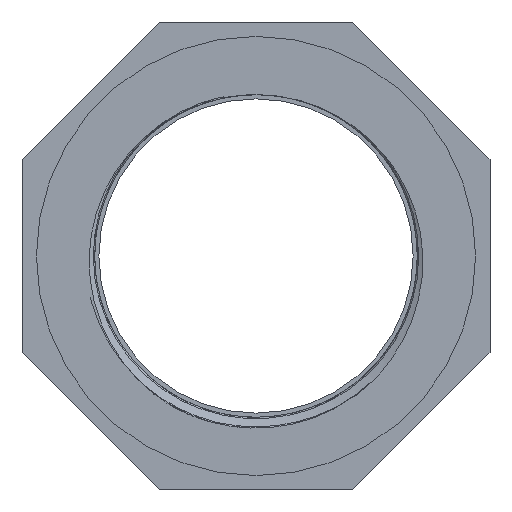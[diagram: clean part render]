
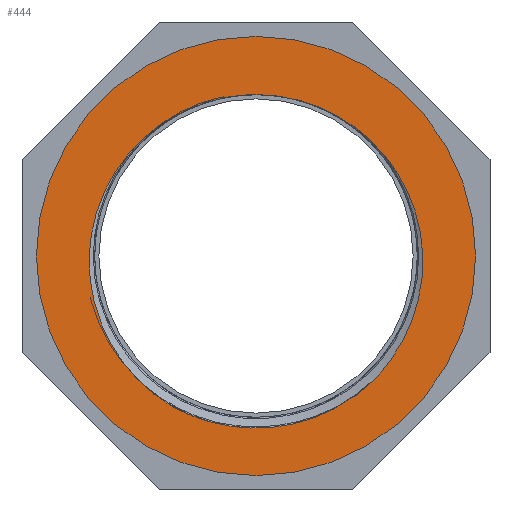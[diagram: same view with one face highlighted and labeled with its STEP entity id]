
A CAD part, front view. The second image highlights one B-rep face of the part: STEP entity #444.
In plain terms, the highlighted planar face has unit normal (0, -1, 0).
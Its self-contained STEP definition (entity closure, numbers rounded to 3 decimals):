
#82=FACE_BOUND('',#149,.T.);
#90=CIRCLE('',#469,30.5);
#115=FACE_OUTER_BOUND('',#148,.T.);
#148=EDGE_LOOP('',(#392));
#149=EDGE_LOOP('',(#393,#394,#395,#396,#397));
#165=B_SPLINE_CURVE_WITH_KNOTS('',3,(#1280,#1281,#1282,#1283,#1284,#1285,
#1286,#1287,#1288,#1289,#1290,#1291,#1292),.UNSPECIFIED.,.F.,.F.,(4,3,3,
3,4),(0.,1.139,2.296,3.469,3.749),
 .UNSPECIFIED.);
#168=B_SPLINE_CURVE_WITH_KNOTS('',3,(#2272,#2273,#2274,#2275,#2276,#2277,
#2278,#2279,#2280,#2281,#2282,#2283),.UNSPECIFIED.,.F.,.F.,(4,2,2,2,2,4),
(0.,0.634,1.233,1.811,2.191,
2.466),.UNSPECIFIED.);
#180=B_SPLINE_CURVE_WITH_KNOTS('',3,(#6718,#6719,#6720,#6721,#6722,#6723,
#6724,#6725,#6726,#6727,#6728,#6729,#6730),.UNSPECIFIED.,.F.,.F.,(4,3,3,
3,4),(0.,1.179,2.341,3.484,3.753),
 .UNSPECIFIED.);
#182=B_SPLINE_CURVE_WITH_KNOTS('',3,(#7457,#7458,#7459,#7460,#7461,#7462,
#7463,#7464),.UNSPECIFIED.,.F.,.F.,(4,2,2,4),(0.,0.505,0.776,
1.069),.UNSPECIFIED.);
#183=B_SPLINE_CURVE_WITH_KNOTS('',3,(#8070,#8071,#8072,#8073,#8074,#8075),
 .UNSPECIFIED.,.F.,.F.,(4,2,4),(0.,0.862,1.966),
 .UNSPECIFIED.);
#196=VERTEX_POINT('',#1158);
#197=VERTEX_POINT('',#1279);
#198=VERTEX_POINT('',#2151);
#204=VERTEX_POINT('',#6597);
#205=VERTEX_POINT('',#7336);
#225=VERTEX_POINT('',#8134);
#239=EDGE_CURVE('',#197,#196,#165,.T.);
#242=EDGE_CURVE('',#196,#198,#168,.T.);
#254=EDGE_CURVE('',#198,#204,#180,.T.);
#256=EDGE_CURVE('',#204,#205,#182,.T.);
#257=EDGE_CURVE('',#205,#197,#183,.T.);
#285=EDGE_CURVE('',#225,#225,#90,.T.);
#392=ORIENTED_EDGE('',*,*,#285,.T.);
#393=ORIENTED_EDGE('',*,*,#257,.T.);
#394=ORIENTED_EDGE('',*,*,#239,.T.);
#395=ORIENTED_EDGE('',*,*,#242,.T.);
#396=ORIENTED_EDGE('',*,*,#254,.T.);
#397=ORIENTED_EDGE('',*,*,#256,.T.);
#418=PLANE('',#468);
#444=ADVANCED_FACE('',(#115,#82),#418,.F.);
#468=AXIS2_PLACEMENT_3D('',#8133,#536,#537);
#469=AXIS2_PLACEMENT_3D('',#8135,#538,#539);
#536=DIRECTION('center_axis',(0.,1.,0.));
#537=DIRECTION('ref_axis',(0.,0.,1.));
#538=DIRECTION('center_axis',(0.,-1.,0.));
#539=DIRECTION('ref_axis',(1.,0.,0.));
#1158=CARTESIAN_POINT('',(16.411,-26.,-17.144));
#1279=CARTESIAN_POINT('',(15.622,-26.,16.321));
#1280=CARTESIAN_POINT('Ctrl Pts',(15.622,-26.,16.321));
#1281=CARTESIAN_POINT('Ctrl Pts',(18.446,-26.,13.782));
#1282=CARTESIAN_POINT('Ctrl Pts',(20.604,-26.,10.535));
#1283=CARTESIAN_POINT('Ctrl Pts',(21.863,-26.,6.968));
#1284=CARTESIAN_POINT('Ctrl Pts',(23.142,-26.,3.345));
#1285=CARTESIAN_POINT('Ctrl Pts',(23.49,-26.,-0.613));
#1286=CARTESIAN_POINT('Ctrl Pts',(22.879,-26.,-4.405));
#1287=CARTESIAN_POINT('Ctrl Pts',(22.259,-26.,-8.246));
#1288=CARTESIAN_POINT('Ctrl Pts',(20.647,-26.,-11.949));
#1289=CARTESIAN_POINT('Ctrl Pts',(18.257,-26.,-15.035));
#1290=CARTESIAN_POINT('Ctrl Pts',(17.685,-26.,-15.774));
#1291=CARTESIAN_POINT('Ctrl Pts',(17.068,-26.,-16.477));
#1292=CARTESIAN_POINT('Ctrl Pts',(16.411,-26.,-17.144));
#2151=CARTESIAN_POINT('',(-16.411,-26.,-17.145));
#2272=CARTESIAN_POINT('Ctrl Pts',(16.411,-26.,-17.144));
#2273=CARTESIAN_POINT('Ctrl Pts',(14.929,-26.,-18.65));
#2274=CARTESIAN_POINT('Ctrl Pts',(12.721,-26.,-20.419));
#2275=CARTESIAN_POINT('Ctrl Pts',(6.943,-26.,-23.065));
#2276=CARTESIAN_POINT('Ctrl Pts',(3.904,-26.,-23.781));
#2277=CARTESIAN_POINT('Ctrl Pts',(-2.165,-26.,-23.992));
#2278=CARTESIAN_POINT('Ctrl Pts',(-5.141,-26.,-23.527));
#2279=CARTESIAN_POINT('Ctrl Pts',(-9.79,-26.,-21.852));
#2280=CARTESIAN_POINT('Ctrl Pts',(-11.546,-26.,-20.957));
#2281=CARTESIAN_POINT('Ctrl Pts',(-14.33,-26.,-19.052));
#2282=CARTESIAN_POINT('Ctrl Pts',(-15.43,-26.,-18.141));
#2283=CARTESIAN_POINT('Ctrl Pts',(-16.411,-26.,-17.144));
#6597=CARTESIAN_POINT('',(-15.623,-26.,16.32));
#6718=CARTESIAN_POINT('Ctrl Pts',(-16.411,-26.,-17.144));
#6719=CARTESIAN_POINT('Ctrl Pts',(-19.168,-26.,-14.343));
#6720=CARTESIAN_POINT('Ctrl Pts',(-21.203,-26.,-10.862));
#6721=CARTESIAN_POINT('Ctrl Pts',(-22.278,-26.,-7.101));
#6722=CARTESIAN_POINT('Ctrl Pts',(-23.338,-26.,-3.392));
#6723=CARTESIAN_POINT('Ctrl Pts',(-23.459,-26.,0.595));
#6724=CARTESIAN_POINT('Ctrl Pts',(-22.615,-26.,4.354));
#6725=CARTESIAN_POINT('Ctrl Pts',(-21.785,-26.,8.051));
#6726=CARTESIAN_POINT('Ctrl Pts',(-20.012,-26.,11.56));
#6727=CARTESIAN_POINT('Ctrl Pts',(-17.506,-26.,14.417));
#6728=CARTESIAN_POINT('Ctrl Pts',(-16.917,-26.,15.088));
#6729=CARTESIAN_POINT('Ctrl Pts',(-16.288,-26.,15.723));
#6730=CARTESIAN_POINT('Ctrl Pts',(-15.623,-26.,16.32));
#7336=CARTESIAN_POINT('',(0.,-26.,22.421));
#7457=CARTESIAN_POINT('Ctrl Pts',(-15.622,-26.,16.321));
#7458=CARTESIAN_POINT('Ctrl Pts',(-14.371,-26.,17.446));
#7459=CARTESIAN_POINT('Ctrl Pts',(-12.419,-26.,18.998));
#7460=CARTESIAN_POINT('Ctrl Pts',(-8.246,-26.,20.945));
#7461=CARTESIAN_POINT('Ctrl Pts',(-6.722,-26.,21.471));
#7462=CARTESIAN_POINT('Ctrl Pts',(-3.464,-26.,22.225));
#7463=CARTESIAN_POINT('Ctrl Pts',(-1.735,-26.,22.423));
#7464=CARTESIAN_POINT('Ctrl Pts',(0.,-26.,22.423));
#8070=CARTESIAN_POINT('Ctrl Pts',(0.,-26.,22.423));
#8071=CARTESIAN_POINT('Ctrl Pts',(2.874,-26.,22.423));
#8072=CARTESIAN_POINT('Ctrl Pts',(5.718,-26.,21.881));
#8073=CARTESIAN_POINT('Ctrl Pts',(11.82,-26.,19.48));
#8074=CARTESIAN_POINT('Ctrl Pts',(14.209,-26.,17.591));
#8075=CARTESIAN_POINT('Ctrl Pts',(15.622,-26.,16.321));
#8133=CARTESIAN_POINT('Origin',(0.,-26.,0.));
#8134=CARTESIAN_POINT('',(-30.5,-26.,0.));
#8135=CARTESIAN_POINT('Origin',(0.,-26.,0.));
